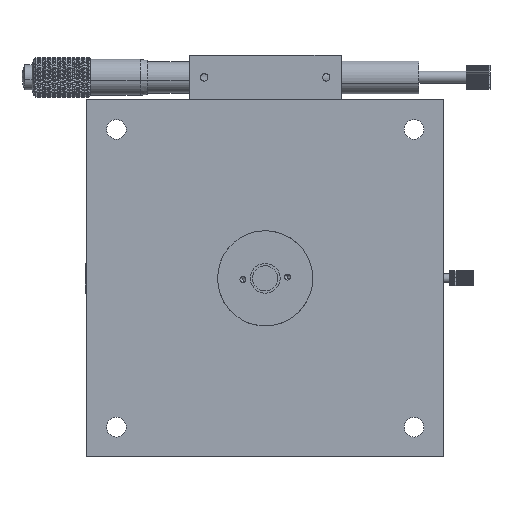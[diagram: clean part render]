
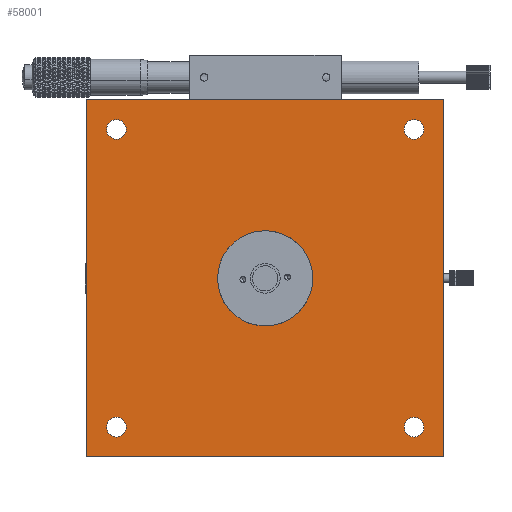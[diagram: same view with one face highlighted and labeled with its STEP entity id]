
A CAD part, front view. The second image highlights one B-rep face of the part: STEP entity #58001.
In plain terms, the highlighted planar face has unit normal (0, -1, 0).
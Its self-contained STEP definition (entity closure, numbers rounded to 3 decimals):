
#37 = DIRECTION ( 'NONE',  ( 0., 0., 1. ) ) ;
#798 = VERTEX_POINT ( 'NONE', #45482 ) ;
#864 = VERTEX_POINT ( 'NONE', #46591 ) ;
#1040 = CARTESIAN_POINT ( 'NONE',  ( 3.406, -8.658, 0. ) ) ;
#1262 = AXIS2_PLACEMENT_3D ( 'NONE', #47954, #16394, #53270 ) ;
#1512 = EDGE_CURVE ( 'NONE', #15486, #41228, #27224, .T. ) ;
#1584 = CIRCLE ( 'NONE', #34433, 16. ) ;
#2589 = CARTESIAN_POINT ( 'NONE',  ( 3.406, -8.658, -16. ) ) ;
#3090 = LINE ( 'NONE', #38185, #31074 ) ;
#3175 = DIRECTION ( 'NONE',  ( 0., 1., 0. ) ) ;
#3491 = CARTESIAN_POINT ( 'NONE',  ( 63.406, -8.658, 60. ) ) ;
#3618 = VERTEX_POINT ( 'NONE', #63520 ) ;
#4211 = DIRECTION ( 'NONE',  ( 0., 0., 1. ) ) ;
#5028 = EDGE_CURVE ( 'NONE', #52336, #798, #66489, .T. ) ;
#5437 = DIRECTION ( 'NONE',  ( 0., 1., 0. ) ) ;
#5901 = CIRCLE ( 'NONE', #13253, 3.3 ) ;
#6137 = ORIENTED_EDGE ( 'NONE', *, *, #27308, .F. ) ;
#6322 = DIRECTION ( 'NONE',  ( 0., 0., 1. ) ) ;
#6620 = CIRCLE ( 'NONE', #1262, 3.3 ) ;
#6624 = DIRECTION ( 'NONE',  ( 1., 0., 0. ) ) ;
#8927 = DIRECTION ( 'NONE',  ( 0., 0., -1. ) ) ;
#10079 = CARTESIAN_POINT ( 'NONE',  ( -56.594, -8.658, -60. ) ) ;
#11139 = EDGE_CURVE ( 'NONE', #15698, #36352, #35298, .T. ) ;
#11334 = DIRECTION ( 'NONE',  ( 0., 1., 0. ) ) ;
#11637 = ORIENTED_EDGE ( 'NONE', *, *, #23090, .F. ) ;
#12192 = FACE_BOUND ( 'NONE', #51649, .T. ) ;
#12211 = EDGE_CURVE ( 'NONE', #15867, #45554, #21283, .T. ) ;
#12259 = DIRECTION ( 'NONE',  ( 0., -1., 0. ) ) ;
#12733 = EDGE_LOOP ( 'NONE', ( #31456, #24555 ) ) ;
#13130 = CARTESIAN_POINT ( 'NONE',  ( -46.594, -8.658, -53.3 ) ) ;
#13253 = AXIS2_PLACEMENT_3D ( 'NONE', #37020, #5437, #42330 ) ;
#14240 = AXIS2_PLACEMENT_3D ( 'NONE', #1040, #37906, #6322 ) ;
#15006 = DIRECTION ( 'NONE',  ( 0., 1., 0. ) ) ;
#15362 = ORIENTED_EDGE ( 'NONE', *, *, #58303, .T. ) ;
#15486 = VERTEX_POINT ( 'NONE', #3491 ) ;
#15698 = VERTEX_POINT ( 'NONE', #33133 ) ;
#15867 = VERTEX_POINT ( 'NONE', #24685 ) ;
#16394 = DIRECTION ( 'NONE',  ( 0., 1., 0. ) ) ;
#18628 = CARTESIAN_POINT ( 'NONE',  ( -56.594, -8.658, -60. ) ) ;
#19884 = EDGE_CURVE ( 'NONE', #45554, #15867, #5901, .T. ) ;
#21283 = CIRCLE ( 'NONE', #24527, 3.3 ) ;
#22896 = ORIENTED_EDGE ( 'NONE', *, *, #11139, .F. ) ;
#23090 = EDGE_CURVE ( 'NONE', #36352, #15698, #1584, .T. ) ;
#24527 = AXIS2_PLACEMENT_3D ( 'NONE', #26847, #63676, #32113 ) ;
#24555 = ORIENTED_EDGE ( 'NONE', *, *, #46386, .T. ) ;
#24685 = CARTESIAN_POINT ( 'NONE',  ( 53.406, -8.658, -46.7 ) ) ;
#25800 = DIRECTION ( 'NONE',  ( 0., 1., 0. ) ) ;
#26781 = AXIS2_PLACEMENT_3D ( 'NONE', #66293, #3175, #40085 ) ;
#26847 = CARTESIAN_POINT ( 'NONE',  ( 53.406, -8.658, -50. ) ) ;
#27224 = LINE ( 'NONE', #40524, #37930 ) ;
#27297 = ORIENTED_EDGE ( 'NONE', *, *, #57600, .T. ) ;
#27308 = EDGE_CURVE ( 'NONE', #57927, #45655, #67992, .T. ) ;
#27483 = EDGE_LOOP ( 'NONE', ( #55497, #60918, #6137, #45609 ) ) ;
#28133 = EDGE_LOOP ( 'NONE', ( #48595, #60088 ) ) ;
#28288 = AXIS2_PLACEMENT_3D ( 'NONE', #42909, #11334, #48192 ) ;
#28659 = CIRCLE ( 'NONE', #64297, 3.3 ) ;
#28857 = EDGE_CURVE ( 'NONE', #864, #55480, #33366, .T. ) ;
#29070 = CARTESIAN_POINT ( 'NONE',  ( 53.406, -8.658, -53.3 ) ) ;
#29435 = PLANE ( 'NONE',  #26781 ) ;
#31074 = VECTOR ( 'NONE', #6624, 1000. ) ;
#31456 = ORIENTED_EDGE ( 'NONE', *, *, #5028, .T. ) ;
#31595 = DIRECTION ( 'NONE',  ( 0., 1., 0. ) ) ;
#32113 = DIRECTION ( 'NONE',  ( 0., 0., 1. ) ) ;
#32913 = AXIS2_PLACEMENT_3D ( 'NONE', #57368, #25800, #62646 ) ;
#33039 = EDGE_CURVE ( 'NONE', #39489, #3618, #6620, .T. ) ;
#33133 = CARTESIAN_POINT ( 'NONE',  ( 3.406, -8.658, 16. ) ) ;
#33366 = CIRCLE ( 'NONE', #28288, 3.3 ) ;
#34433 = AXIS2_PLACEMENT_3D ( 'NONE', #43848, #12259, #49118 ) ;
#34832 = CARTESIAN_POINT ( 'NONE',  ( -56.594, -8.658, 60. ) ) ;
#35298 = CIRCLE ( 'NONE', #14240, 16. ) ;
#35742 = CARTESIAN_POINT ( 'NONE',  ( -46.594, -8.658, 53.3 ) ) ;
#35767 = DIRECTION ( 'NONE',  ( 0., 1., 0. ) ) ;
#36352 = VERTEX_POINT ( 'NONE', #2589 ) ;
#37020 = CARTESIAN_POINT ( 'NONE',  ( 53.406, -8.658, -50. ) ) ;
#37525 = AXIS2_PLACEMENT_3D ( 'NONE', #67324, #35767, #4211 ) ;
#37906 = DIRECTION ( 'NONE',  ( 0., -1., 0. ) ) ;
#37930 = VECTOR ( 'NONE', #8927, 1000. ) ;
#38185 = CARTESIAN_POINT ( 'NONE',  ( -56.594, -8.658, 60. ) ) ;
#38341 = VECTOR ( 'NONE', #53623, 1000. ) ;
#38590 = FACE_OUTER_BOUND ( 'NONE', #27483, .T. ) ;
#38740 = VECTOR ( 'NONE', #46970, 1000. ) ;
#39489 = VERTEX_POINT ( 'NONE', #13130 ) ;
#39679 = ORIENTED_EDGE ( 'NONE', *, *, #33039, .T. ) ;
#40085 = DIRECTION ( 'NONE',  ( 0., 0., 1. ) ) ;
#40273 = FACE_BOUND ( 'NONE', #28133, .T. ) ;
#40524 = CARTESIAN_POINT ( 'NONE',  ( 63.406, -8.658, -60. ) ) ;
#41228 = VERTEX_POINT ( 'NONE', #50550 ) ;
#41883 = FACE_BOUND ( 'NONE', #12733, .T. ) ;
#42330 = DIRECTION ( 'NONE',  ( 0., 0., 1. ) ) ;
#42909 = CARTESIAN_POINT ( 'NONE',  ( -46.594, -8.658, 50. ) ) ;
#43848 = CARTESIAN_POINT ( 'NONE',  ( 3.406, -8.658, 0. ) ) ;
#44208 = AXIS2_PLACEMENT_3D ( 'NONE', #63163, #31595, #37 ) ;
#45482 = CARTESIAN_POINT ( 'NONE',  ( 53.406, -8.658, 46.7 ) ) ;
#45554 = VERTEX_POINT ( 'NONE', #29070 ) ;
#45609 = ORIENTED_EDGE ( 'NONE', *, *, #50209, .F. ) ;
#45655 = VERTEX_POINT ( 'NONE', #34832 ) ;
#46386 = EDGE_CURVE ( 'NONE', #798, #52336, #52199, .T. ) ;
#46574 = CARTESIAN_POINT ( 'NONE',  ( -46.594, -8.658, -50. ) ) ;
#46591 = CARTESIAN_POINT ( 'NONE',  ( -46.594, -8.658, 46.7 ) ) ;
#46970 = DIRECTION ( 'NONE',  ( -1., 0., 0. ) ) ;
#47954 = CARTESIAN_POINT ( 'NONE',  ( -46.594, -8.658, -50. ) ) ;
#48192 = DIRECTION ( 'NONE',  ( 0., 0., 1. ) ) ;
#48595 = ORIENTED_EDGE ( 'NONE', *, *, #12211, .T. ) ;
#48745 = ORIENTED_EDGE ( 'NONE', *, *, #28857, .T. ) ;
#49118 = DIRECTION ( 'NONE',  ( 0., 0., 1. ) ) ;
#50209 = EDGE_CURVE ( 'NONE', #41228, #57927, #52743, .T. ) ;
#50550 = CARTESIAN_POINT ( 'NONE',  ( 63.406, -8.658, -60. ) ) ;
#51649 = EDGE_LOOP ( 'NONE', ( #15362, #39679 ) ) ;
#51848 = DIRECTION ( 'NONE',  ( 0., 0., 1. ) ) ;
#52199 = CIRCLE ( 'NONE', #37525, 3.3 ) ;
#52336 = VERTEX_POINT ( 'NONE', #64870 ) ;
#52521 = CIRCLE ( 'NONE', #32913, 3.3 ) ;
#52590 = FACE_BOUND ( 'NONE', #55579, .T. ) ;
#52743 = LINE ( 'NONE', #10079, #38740 ) ;
#53270 = DIRECTION ( 'NONE',  ( 0., 0., 1. ) ) ;
#53623 = DIRECTION ( 'NONE',  ( 0., 0., 1. ) ) ;
#55480 = VERTEX_POINT ( 'NONE', #35742 ) ;
#55497 = ORIENTED_EDGE ( 'NONE', *, *, #1512, .F. ) ;
#55579 = EDGE_LOOP ( 'NONE', ( #22896, #11637 ) ) ;
#57368 = CARTESIAN_POINT ( 'NONE',  ( -46.594, -8.658, 50. ) ) ;
#57600 = EDGE_CURVE ( 'NONE', #55480, #864, #52521, .T. ) ;
#57927 = VERTEX_POINT ( 'NONE', #18628 ) ;
#58001 = ADVANCED_FACE ( 'NONE', ( #12192, #40273, #41883, #66594, #52590, #38590 ), #29435, .F. ) ;
#58303 = EDGE_CURVE ( 'NONE', #3618, #39489, #28659, .T. ) ;
#58646 = EDGE_CURVE ( 'NONE', #45655, #15486, #3090, .T. ) ;
#58915 = CARTESIAN_POINT ( 'NONE',  ( -56.594, -8.658, -60. ) ) ;
#60088 = ORIENTED_EDGE ( 'NONE', *, *, #19884, .T. ) ;
#60918 = ORIENTED_EDGE ( 'NONE', *, *, #58646, .F. ) ;
#61767 = EDGE_LOOP ( 'NONE', ( #27297, #48745 ) ) ;
#62646 = DIRECTION ( 'NONE',  ( 0., 0., 1. ) ) ;
#63163 = CARTESIAN_POINT ( 'NONE',  ( 53.406, -8.658, 50. ) ) ;
#63520 = CARTESIAN_POINT ( 'NONE',  ( -46.594, -8.658, -46.7 ) ) ;
#63676 = DIRECTION ( 'NONE',  ( 0., 1., 0. ) ) ;
#64297 = AXIS2_PLACEMENT_3D ( 'NONE', #46574, #15006, #51848 ) ;
#64870 = CARTESIAN_POINT ( 'NONE',  ( 53.406, -8.658, 53.3 ) ) ;
#66293 = CARTESIAN_POINT ( 'NONE',  ( 3.406, -8.658, 0. ) ) ;
#66489 = CIRCLE ( 'NONE', #44208, 3.3 ) ;
#66594 = FACE_BOUND ( 'NONE', #61767, .T. ) ;
#67324 = CARTESIAN_POINT ( 'NONE',  ( 53.406, -8.658, 50. ) ) ;
#67992 = LINE ( 'NONE', #58915, #38341 ) ;
